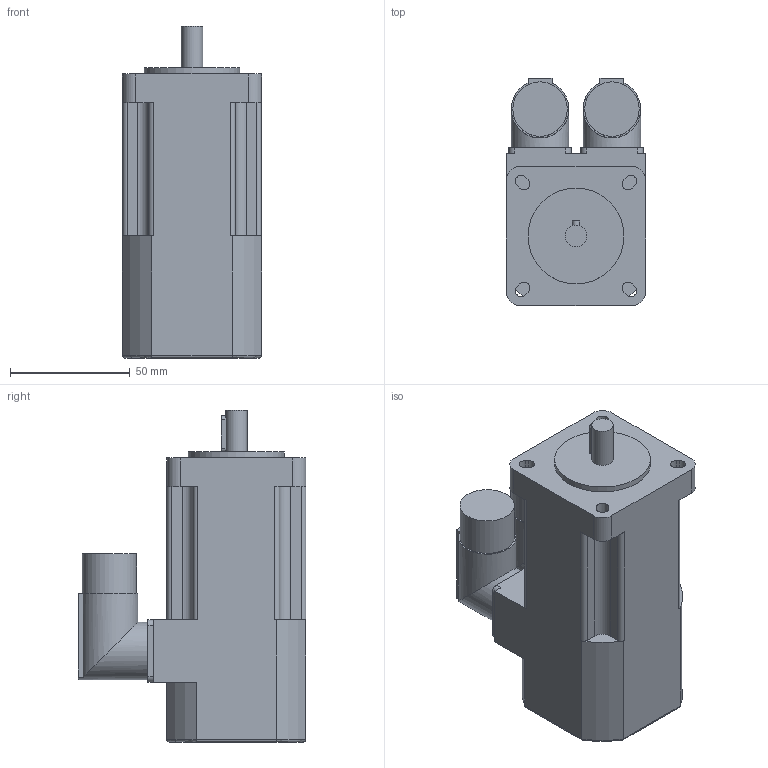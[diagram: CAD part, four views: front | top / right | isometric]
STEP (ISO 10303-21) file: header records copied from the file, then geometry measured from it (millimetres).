
FILE_DESCRIPTION(/* description */ (''),/* implementation_level */ '2;1');
FILE_NAME(/* name */ '\\Lafnas01\disegni\Archivi Lafert\3D\CAD 3D\MODELLI\Assiemi clienti\Serad\Modelli 3D Serad\B28Q\Encoder\Without Brake\B28D5Qxx6ARx2033.ipt.stp',/* time_stamp */ '2015-09-07T10:48:26+02:00',/* author */ ('Pastrello Ylenia'),/* organization */ (''),/* preprocessor_version */ 'ST-DEVELOPER v15.6',/* originating_system */ 'Autodesk Inventor 2015',/* authorisation */ '');
FILE_SCHEMA (('AUTOMOTIVE_DESIGN { 1 0 10303 214 3 1 1 }'));
Length unit declared in the file: millimetre
Products named in the file (1): B28D5Qxx6ARx2033
Bounding box: 58 x 95 x 138.5 mm (x, y, z)
Volume: 426796 mm3; surface area: 44918.5 mm2
Topology: 1 solids, 1 shells, 135 faces, 364 edges, 237 vertices
Faces by surface type: plane 71, cylinder 60, torus 4
Full cylindrical faces by diameter (mm): 9 x1, 22.7 x2, 24 x2, 40 x1
Entity records: 4341 total; most frequent: CARTESIAN_POINT 864, DIRECTION 737, ORIENTED_EDGE 712, EDGE_CURVE 355, AXIS2_PLACEMENT_3D 258, VERTEX_POINT 235, LINE 221, VECTOR 221
